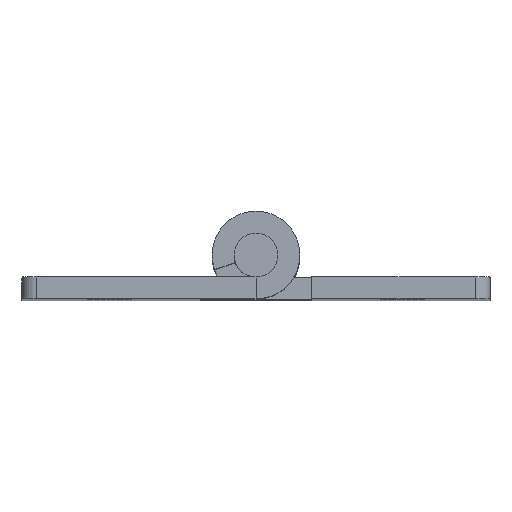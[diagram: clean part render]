
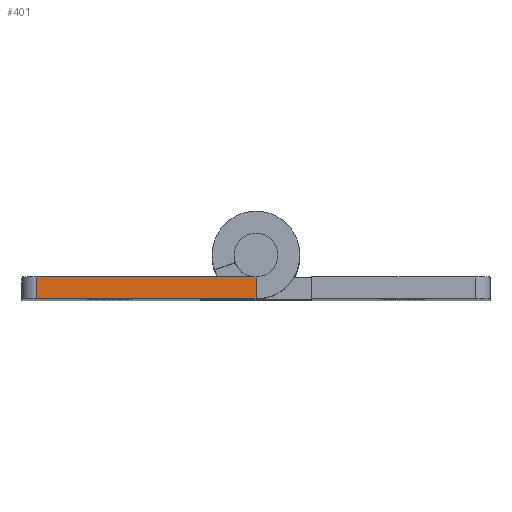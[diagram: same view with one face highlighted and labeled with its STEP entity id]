
A CAD part, top view. The second image highlights one B-rep face of the part: STEP entity #401.
In plain terms, the highlighted planar face has unit normal (0, 0, 1) as drawn and (0, 0, -1) by its records, which use the part's own axes.
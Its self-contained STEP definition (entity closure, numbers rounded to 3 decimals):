
#42 = DIRECTION ( 'NONE',  ( 1., 0., 0. ) ) ;
#50 = VERTEX_POINT ( 'NONE', #1336 ) ;
#66 = ORIENTED_EDGE ( 'NONE', *, *, #668, .T. ) ;
#161 = LINE ( 'NONE', #336, #1879 ) ;
#195 = ORIENTED_EDGE ( 'NONE', *, *, #1775, .T. ) ;
#283 = LINE ( 'NONE', #1678, #864 ) ;
#302 = VECTOR ( 'NONE', #1966, 1000. ) ;
#336 = CARTESIAN_POINT ( 'NONE',  ( 15., -3., -37.5 ) ) ;
#401 = ADVANCED_FACE ( 'NONE', ( #1588 ), #1596, .F. ) ;
#668 = EDGE_CURVE ( 'NONE', #50, #1924, #1543, .T. ) ;
#863 = EDGE_CURVE ( 'NONE', #2232, #1960, #2709, .T. ) ;
#864 = VECTOR ( 'NONE', #1796, 1000. ) ;
#1021 = CARTESIAN_POINT ( 'NONE',  ( 15., -3., -37.5 ) ) ;
#1188 = CARTESIAN_POINT ( 'NONE',  ( 0., -3., -37.5 ) ) ;
#1336 = CARTESIAN_POINT ( 'NONE',  ( 0., -1.5, -37.5 ) ) ;
#1376 = DIRECTION ( 'NONE',  ( 0., 0., 1. ) ) ;
#1440 = VECTOR ( 'NONE', #2454, 1000. ) ;
#1543 = LINE ( 'NONE', #1948, #302 ) ;
#1554 = CARTESIAN_POINT ( 'NONE',  ( 0., -3., -37.5 ) ) ;
#1570 = EDGE_CURVE ( 'NONE', #2232, #50, #283, .T. ) ;
#1588 = FACE_OUTER_BOUND ( 'NONE', #2205, .T. ) ;
#1596 = PLANE ( 'NONE',  #2321 ) ;
#1668 = DIRECTION ( 'NONE',  ( 0., -1., 0. ) ) ;
#1678 = CARTESIAN_POINT ( 'NONE',  ( 0., -3., -37.5 ) ) ;
#1775 = EDGE_CURVE ( 'NONE', #1924, #1960, #161, .T. ) ;
#1796 = DIRECTION ( 'NONE',  ( 0., 1., 0. ) ) ;
#1844 = ORIENTED_EDGE ( 'NONE', *, *, #863, .F. ) ;
#1879 = VECTOR ( 'NONE', #1668, 1000. ) ;
#1924 = VERTEX_POINT ( 'NONE', #2304 ) ;
#1948 = CARTESIAN_POINT ( 'NONE',  ( 0., -1.5, -37.5 ) ) ;
#1960 = VERTEX_POINT ( 'NONE', #1021 ) ;
#1966 = DIRECTION ( 'NONE',  ( 1., 0., 0. ) ) ;
#2014 = CARTESIAN_POINT ( 'NONE',  ( 0., 0., -37.5 ) ) ;
#2205 = EDGE_LOOP ( 'NONE', ( #66, #195, #1844, #2513 ) ) ;
#2232 = VERTEX_POINT ( 'NONE', #1188 ) ;
#2304 = CARTESIAN_POINT ( 'NONE',  ( 15., -1.5, -37.5 ) ) ;
#2321 = AXIS2_PLACEMENT_3D ( 'NONE', #2014, #1376, #42 ) ;
#2454 = DIRECTION ( 'NONE',  ( 1., 0., 0. ) ) ;
#2513 = ORIENTED_EDGE ( 'NONE', *, *, #1570, .T. ) ;
#2709 = LINE ( 'NONE', #1554, #1440 ) ;
